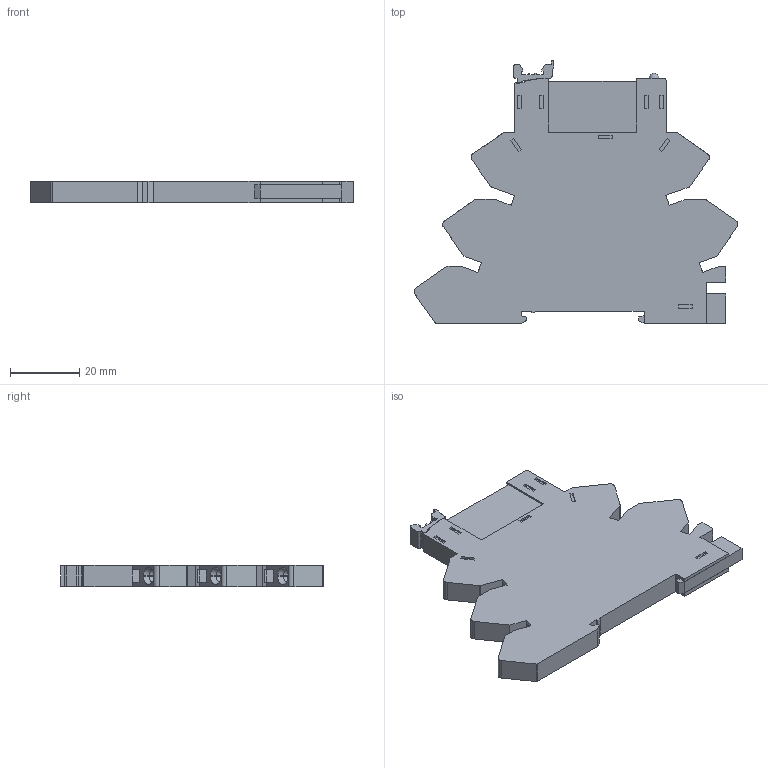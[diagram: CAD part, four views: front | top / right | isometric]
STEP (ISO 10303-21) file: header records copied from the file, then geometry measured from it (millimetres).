
FILE_DESCRIPTION(('STEP AP214'),'2;1');
FILE_NAME('3861_05-2020.stp','2020-05-21T08:14:11',(''),(''),'2007.1.106','THINKDESIGN','');
FILE_SCHEMA(('AUTOMOTIVE_DESIGN'));
Length unit declared in the file: millimetre
Products named in the file (1): top
Bounding box: 93.63 x 75.98 x 6.2 mm (x, y, z)
Surface area: 13945.5 mm2 (no closed solid volume)
Topology: 0 solids, 0 shells, 418 faces, 2246 edges, 2244 vertices
Faces by surface type: bspline 418
Entity records: 13128 total; most frequent: CARTESIAN_POINT 7118, COMPOSITE_CURVE_SEGMENT 2246, QUASI_UNIFORM_CURVE 1776, OUTER_BOUNDARY_CURVE 418, CURVE_BOUNDED_SURFACE 418, STYLED_ITEM 418, B_SPLINE_SURFACE_WITH_KNOTS 366, B_SPLINE_CURVE_WITH_KNOTS 274
